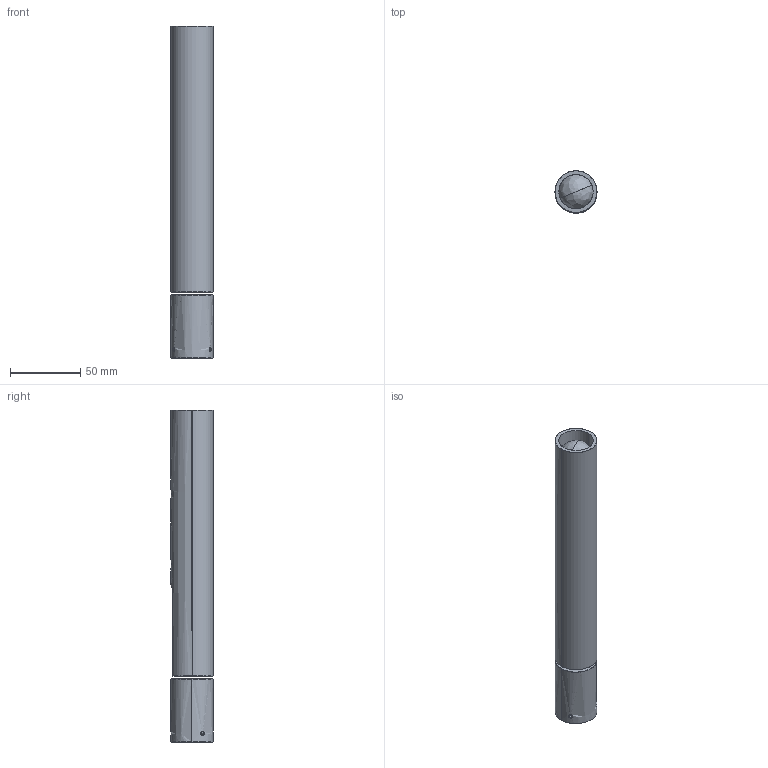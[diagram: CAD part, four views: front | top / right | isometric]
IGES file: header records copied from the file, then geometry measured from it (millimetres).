
Start section: SolidWorks IGES file using analytic representation for surfaces
Global section: file name: D:\OneDrive\R&D\3D\EGO\Ego.IGS; native system: SolidWorks 2019; preprocessor: SolidWorks 2019; author: tecnico8; date: 190726.112927; units: millimetre
Bounding box: 30 x 30 x 237.1 mm (x, y, z)
Surface area: 46777.7 mm2 (no closed solid volume)
Topology: 0 solids, 0 shells, 193 faces, 2544 edges, 2512 vertices
Faces by surface type: revolution 97, bspline 96
